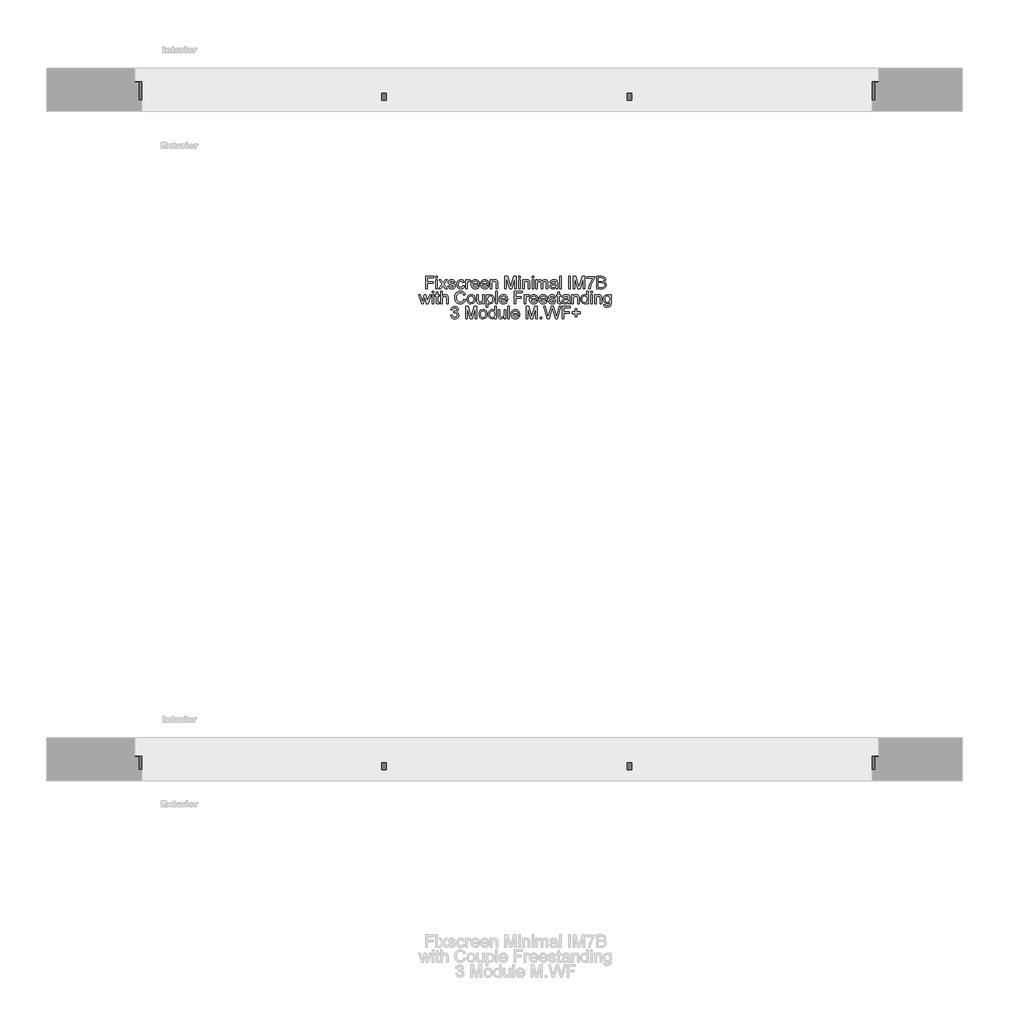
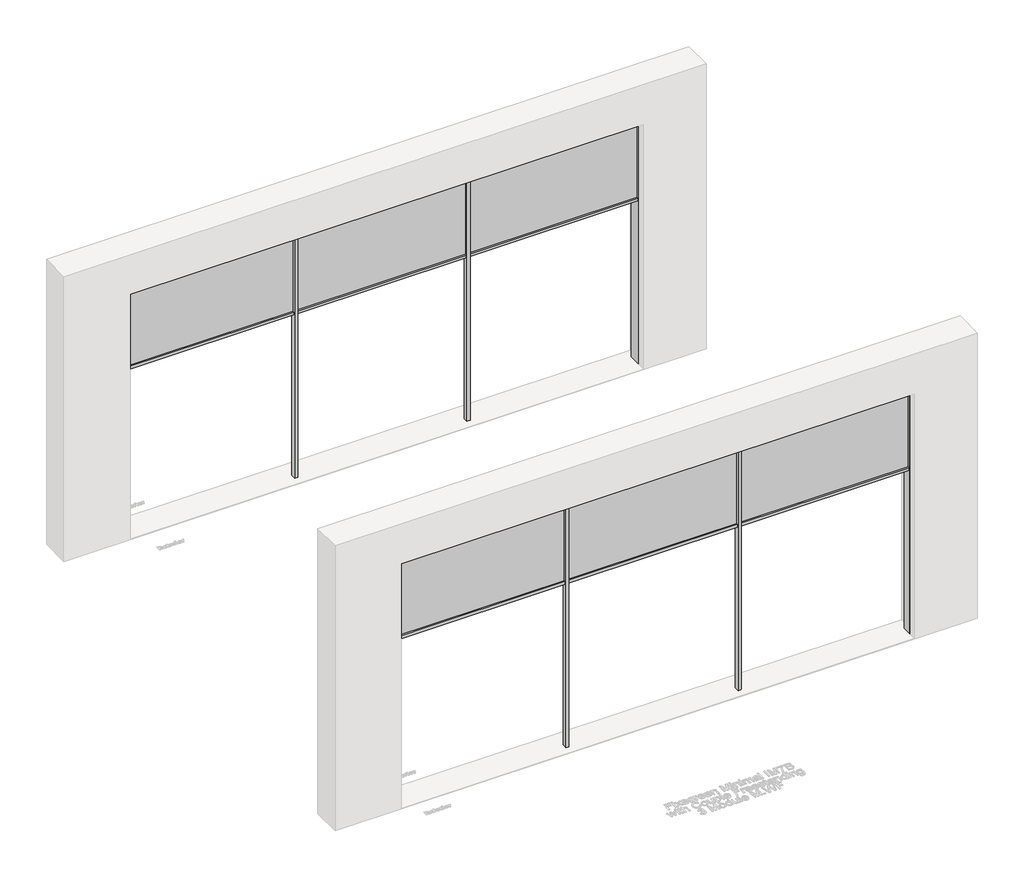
# One storey, part 14 of 14: 3 proxies.
"""IFC4 building model written with IfcOpenShell, lengths in millimetres."""

from ifc_helpers import new_model, si_unit, origin, origin_with_axes, place, context, project, spatial, polyline, outline, extrude, transform, mapped, element, save
from components import generic_models_ba440e1d, generic_models_d797c312

model = new_model("IFC4")

# Units and contexts
model_context = context("Model", 3, world=origin())
ifc_project = project(units=[si_unit("LENGTHUNIT", "METRE", prefix="MILLI")], contexts=[model_context])

# Site, building, storey
site = spatial("IfcSite", under=ifc_project)
building = spatial("IfcBuilding", under=site)
storey = spatial("IfcBuildingStorey", under=building, Name="Fixscreen Mini CF Overview Top", Elevation=0.0)

# Proxies
placement = place(None, origin())
generic_models_shape = generic_models_ba440e1d(model_context)
element("IfcBuildingElementProxy", 1, Name="Renson_Fixscreen_Minimal_IM7B_With_CF : Recessed - Front of the window - Medium-CF - Access downwards - Fabric away from the window", ObjectType="Renson_Fixscreen_Minimal_IM7B_With_CF : Recessed - Front of the window - Medium-CF - Access downwards - Fabric away from the window", at=placement, inside=storey, context=model_context, shape_type="MappedRepresentation", body=[
    mapped(generic_models_shape, transform((2057.1404643, 15780.6597098, -790.0), x_axis=(-1.0, 0.0, 0.0), y_axis=(0.0, -1.0, 0.0), z_axis=(0.0, 0.0, 1.0))),
])
generic_models_2_shape = generic_models_d797c312(model_context)
element("IfcBuildingElementProxy", 2, Name="Renson_Fixscreen_Minimal_IM7B_With_CF : Recessed - Front of the window - Medium-CF - Access downwards - Fabric away from the window", ObjectType="Renson_Fixscreen_Minimal_IM7B_With_CF : Recessed - Front of the window - Medium-CF - Access downwards - Fabric away from the window", at=placement, inside=storey, context=model_context, shape_type="MappedRepresentation", body=[
    mapped(generic_models_2_shape, transform((2057.1404643, 10326.5367638, -790.0), x_axis=(-1.0, 0.0, 0.0), y_axis=(0.0, -1.0, 0.0), z_axis=(0.0, 0.0, 1.0))),
])
element("IfcBuildingElementProxy", 3, Name="100mm Arial", ObjectType="100mm Arial", at=placement, inside=storey, context=model_context, shape_type="SweptSolid", body=[
    extrude(outline(polyline([(294.8320577, 14159.3437823), (294.8320577, 14259.8000924), (362.3261411, 14259.8000924), (362.3261411, 14247.2430536), (307.3890965, 14247.2430536), (307.3890965, 14217.4200866), (354.4779918, 14217.4200866), (354.4779918, 14204.8630478), (307.3890965, 14204.8630478), (307.3890965, 14159.3437823), (294.8320577, 14159.3437823)])), origin_with_axes(), (0.0, 0.0, 1.0), 5.0),
    extrude(outline(polyline([(378.0224395, 14159.3437823), (378.0224395, 14233.116385), (390.5794783, 14233.116385), (390.5794783, 14159.3437823), (378.0224395, 14159.3437823)])), origin_with_axes(), (0.0, 0.0, 1.0), 5.0),
    extrude(outline(polyline([(378.0224395, 14247.2430536), (378.0224395, 14259.8000924), (390.5794783, 14259.8000924), (390.5794783, 14247.2430536), (378.0224395, 14247.2430536)])), origin_with_axes(), (0.0, 0.0, 1.0), 5.0),
    extrude(outline(polyline([(401.5668872, 14159.3437823), (428.3977474, 14196.4262874), (403.1365171, 14233.116385), (418.2442043, 14233.116385), (430.4333611, 14215.4580493), (436.1232693, 14207.1193907), (441.052888, 14213.9374703), (454.934302, 14233.116385), (470.0419893, 14233.116385), (443.5054347, 14196.4262874), (469.0609706, 14159.3437823), (453.9532833, 14159.3437823), (438.5758159, 14181.6374312), (435.7553873, 14185.7086586), (416.6745745, 14159.3437823), (401.5668872, 14159.3437823)])), origin_with_axes(), (0.0, 0.0, 1.0), 5.0),
    extrude(outline(polyline([(475.33949, 14181.3186001), (487.8965288, 14182.88823), (493.7090643, 14173.5685527), (507.0263925, 14170.3311912), (519.8286859, 14173.2987726), (523.9980152, 14180.2640051), (519.8041605, 14185.9048623), (506.8792397, 14189.4855804), (487.9701052, 14195.6292097), (479.7172857, 14202.8029086), (476.9091198, 14212.9319262), (479.1654627, 14222.2883916), (485.3213548, 14229.4375651), (493.3043941, 14233.1531732), (504.107862, 14234.6860149), (519.3872275, 14232.2212055), (529.0993122, 14225.5502787), (533.4157943, 14214.2808269), (520.8587555, 14212.711197), (516.1376033, 14219.6396413), (505.0888807, 14222.1289761), (493.0714022, 14219.7500059), (489.4661586, 14214.2072505), (490.9622121, 14210.552956), (495.6465761, 14207.7815783), (506.4623068, 14205.1083025), (524.8931947, 14199.1976651), (533.4525825, 14192.5022128), (536.555054, 14181.5883802), (532.9130222, 14169.5709017), (522.4038599, 14160.8520984), (506.8547142, 14157.7741524), (494.1934422, 14159.2579431), (484.9534728, 14163.7093153), (478.785318, 14171.0792179), (475.33949, 14181.3186001)])), origin_with_axes(), (0.0, 0.0, 1.0), 5.0),
    extrude(outline(polyline([(597.770618, 14186.0274896), (610.3276568, 14184.4578598), (606.8266464, 14173.2895756), (600.2476901, 14164.8497495), (591.2100557, 14159.5430517), (580.3330114, 14157.7741524), (566.9758293, 14160.2420275), (556.5310463, 14167.6456526), (549.7896088, 14179.6600654), (547.5424629, 14195.9603035), (551.3806984, 14216.8192126), (563.0793458, 14230.22238), (580.1613332, 14234.6860149), (590.771663, 14233.1531732), (599.2544087, 14228.5546483), (605.33979, 14221.1356947), (608.7580269, 14211.1415672), (596.2009881, 14209.5719373), (590.3761899, 14218.9774537), (580.259435, 14222.1289761), (572.1445713, 14220.5777404), (565.7035707, 14215.9240331), (561.5005189, 14207.9164684), (560.0995017, 14196.30366), (561.4698621, 14184.5345019), (565.5809434, 14176.499346), (571.905448, 14171.8732299), (579.9160785, 14170.3311912), (591.749616, 14174.1816894), (597.770618, 14186.0274896)])), origin_with_axes(), (0.0, 0.0, 1.0), 5.0),
    extrude(outline(polyline([(621.3150657, 14159.3437823), (621.3150657, 14233.116385), (632.3024746, 14233.116385), (632.3024746, 14222.2025525), (640.1015729, 14232.2579937), (647.9497221, 14234.6860149), (660.5558118, 14230.8109912), (656.3619571, 14219.5538021), (647.5327892, 14222.1289761), (640.4326667, 14219.651904), (635.9077182, 14212.7847734), (633.8721044, 14198.1185446), (633.8721044, 14159.3437823), (621.3150657, 14159.3437823)])), origin_with_axes(), (0.0, 0.0, 1.0), 5.0),
    extrude(outline(polyline([(720.0545932, 14181.3186001), (732.3663773, 14179.7489703), (727.9303336, 14170.4722126), (720.8516708, 14163.537637), (711.2898046, 14159.2150236), (699.4041505, 14157.7741524), (684.6704766, 14160.2604216), (673.3335798, 14167.719229), (666.1046986, 14179.6661968), (663.6950715, 14195.616947), (666.1292241, 14212.1041917), (673.4316817, 14224.4343699), (684.6152943, 14232.1231036), (698.692912, 14234.6860149), (712.332137, 14232.129235), (723.2306411, 14224.4588954), (730.3767488, 14212.1532427), (732.7587848, 14195.6905234), (732.6852084, 14192.306009), (676.2521103, 14192.306009), (678.4256797, 14182.9066241), (683.4748601, 14175.9965739), (690.7619893, 14171.7475369), (699.6494052, 14170.3311912), (711.9611893, 14172.9554161), (720.0545932, 14181.3186001)]), holes=[polyline([(676.2521103, 14204.8630478), (720.201746, 14204.8630478), (715.1740254, 14216.2428642), (707.8531737, 14220.6574481), (698.6438611, 14222.1289761), (683.1805545, 14217.4323493), (678.3153151, 14211.9417105), (676.2521103, 14204.8630478)])]), origin_with_axes(), (0.0, 0.0, 1.0), 5.0),
    extrude(outline(polyline([(796.9664556, 14181.3186001), (809.2782397, 14179.7489703), (804.842196, 14170.4722126), (797.7635333, 14163.537637), (788.2016671, 14159.2150236), (776.316013, 14157.7741524), (761.5823391, 14160.2604216), (750.2454423, 14167.719229), (743.016561, 14179.6661968), (740.606934, 14195.616947), (743.0410865, 14212.1041917), (750.3435441, 14224.4343699), (761.5271568, 14232.1231036), (775.6047745, 14234.6860149), (789.2439994, 14232.129235), (800.1425035, 14224.4588954), (807.2886113, 14212.1532427), (809.6706472, 14195.6905234), (809.5970708, 14192.306009), (753.1639728, 14192.306009), (755.3375422, 14182.9066241), (760.3867226, 14175.9965739), (767.6738518, 14171.7475369), (776.5612676, 14170.3311912), (788.8730517, 14172.9554161), (796.9664556, 14181.3186001)]), holes=[polyline([(753.1639728, 14204.8630478), (797.1136084, 14204.8630478), (792.0858878, 14216.2428642), (784.7650361, 14220.6574481), (775.5557235, 14222.1289761), (760.092417, 14217.4323493), (755.2271776, 14211.9417105), (753.1639728, 14204.8630478)])]), origin_with_axes(), (0.0, 0.0, 1.0), 5.0),
    extrude(outline(polyline([(822.227686, 14159.3437823), (822.227686, 14233.116385), (834.7847247, 14233.116385), (834.7847247, 14222.8156892), (844.3864448, 14231.7184334), (857.4953066, 14234.6860149), (869.3533696, 14232.2947819), (877.4467735, 14226.0162625), (881.2114325, 14216.7824244), (881.8736201, 14204.6423186), (881.8736201, 14159.3437823), (869.3165814, 14159.3437823), (869.3165814, 14202.9500614), (867.8695788, 14214.0600977), (862.7560191, 14219.9339469), (854.1353177, 14222.1289761), (840.5114211, 14217.1993574), (836.2163988, 14210.0563153), (834.7847247, 14198.4864265), (834.7847247, 14159.3437823), (822.227686, 14159.3437823)])), origin_with_axes(), (0.0, 0.0, 1.0), 5.0),
    extrude(outline(polyline([(939.9499244, 14159.3437823), (939.9499244, 14259.8000924), (961.5568603, 14259.8000924), (982.1092011, 14188.9950711), (986.2540049, 14174.2062149), (990.7421652, 14190.2213444), (1010.9511495, 14259.8000924), (1032.5580854, 14259.8000924), (1032.5580854, 14159.3437823), (1020.0010466, 14159.3437823), (1020.0010466, 14247.2430536), (994.7643417, 14159.3437823), (977.7436681, 14159.3437823), (952.5069632, 14247.2430536), (952.5069632, 14159.3437823), (939.9499244, 14159.3437823)])), origin_with_axes(), (0.0, 0.0, 1.0), 5.0),
    extrude(outline(polyline([(1052.9632734, 14247.2430536), (1052.9632734, 14259.8000924), (1065.5203121, 14259.8000924), (1065.5203121, 14247.2430536), (1052.9632734, 14247.2430536)])), origin_with_axes(), (0.0, 0.0, 1.0), 5.0),
    extrude(outline(polyline([(1052.9632734, 14159.3437823), (1052.9632734, 14233.116385), (1065.5203121, 14233.116385), (1065.5203121, 14159.3437823), (1052.9632734, 14159.3437823)])), origin_with_axes(), (0.0, 0.0, 1.0), 5.0),
    extrude(outline(polyline([(1084.3558703, 14159.3437823), (1084.3558703, 14233.116385), (1096.912909, 14233.116385), (1096.912909, 14222.8156892), (1106.5146291, 14231.7184334), (1119.6234909, 14234.6860149), (1131.4815539, 14232.2947819), (1139.5749578, 14226.0162625), (1143.3396168, 14216.7824244), (1144.0018044, 14204.6423186), (1144.0018044, 14159.3437823), (1131.4447657, 14159.3437823), (1131.4447657, 14202.9500614), (1129.9977631, 14214.0600977), (1124.8842034, 14219.9339469), (1116.263502, 14222.1289761), (1102.6396054, 14217.1993574), (1098.3445831, 14210.0563153), (1096.912909, 14198.4864265), (1096.912909, 14159.3437823), (1084.3558703, 14159.3437823)])), origin_with_axes(), (0.0, 0.0, 1.0), 5.0),
    extrude(outline(polyline([(1161.2677327, 14159.3437823), (1161.2677327, 14233.116385), (1173.8247715, 14233.116385), (1173.8247715, 14159.3437823), (1161.2677327, 14159.3437823)])), origin_with_axes(), (0.0, 0.0, 1.0), 5.0),
    extrude(outline(polyline([(1161.2677327, 14247.2430536), (1161.2677327, 14259.8000924), (1173.8247715, 14259.8000924), (1173.8247715, 14247.2430536), (1161.2677327, 14247.2430536)])), origin_with_axes(), (0.0, 0.0, 1.0), 5.0),
    extrude(outline(polyline([(1192.6603297, 14159.3437823), (1192.6603297, 14233.116385), (1205.2173684, 14233.116385), (1205.2173684, 14220.9762792), (1213.8503326, 14230.9213558), (1226.1375912, 14234.6860149), (1238.7191555, 14230.8477794), (1245.635337, 14220.0933624), (1255.4332608, 14231.0378518), (1267.8063585, 14234.6860149), (1277.2455974, 14233.1685016), (1284.2261583, 14228.615962), (1288.5395746, 14220.9057685), (1289.9773801, 14209.9152939), (1289.9773801, 14159.3437823), (1277.4203413, 14159.3437823), (1277.4203413, 14204.5196913), (1276.2553817, 14215.0043281), (1272.0370015, 14220.1669388), (1264.8633026, 14222.1289761), (1252.5147303, 14217.1012555), (1248.8267133, 14210.5590874), (1247.5973743, 14200.9880241), (1247.5973743, 14159.3437823), (1235.0403355, 14159.3437823), (1235.0403355, 14205.9176428), (1232.1340677, 14218.0822742), (1222.6059241, 14222.1289761), (1213.3107723, 14219.4311748), (1207.1303548, 14211.5339746), (1205.2173684, 14196.5489147), (1205.2173684, 14159.3437823), (1192.6603297, 14159.3437823)])), origin_with_axes(), (0.0, 0.0, 1.0), 5.0),
    extrude(outline(polyline([(1355.9018336, 14168.7615613), (1343.7249396, 14160.2512245), (1330.2727213, 14157.7741524), (1319.7788874, 14159.2640745), (1312.0380371, 14163.7338407), (1307.2647682, 14170.5212635), (1305.6736786, 14178.9641553), (1308.0771743, 14188.8969692), (1314.3924819, 14196.1074563), (1323.1848615, 14200.2277347), (1334.0496431, 14202.1161956), (1355.8282572, 14206.4326776), (1355.9018336, 14209.2285808), (1352.4437429, 14218.4992071), (1338.5623289, 14222.1289761), (1325.8581374, 14219.7132177), (1319.8003472, 14211.1415672), (1307.2433084, 14212.711197), (1312.6756992, 14224.9739302), (1323.6140572, 14232.1598918), (1340.1810097, 14234.6860149), (1355.3990616, 14232.4541974), (1363.9952375, 14226.8501284), (1367.8457358, 14218.3275288), (1368.4588724, 14207.3401199), (1368.4588724, 14191.7173978), (1369.0965345, 14169.9019955), (1371.5981321, 14159.3437823), (1359.0410933, 14159.3437823), (1355.9018336, 14168.7615613)]), holes=[polyline([(1355.9018336, 14193.8756389), (1335.6437984, 14190.0251407), (1324.8403305, 14187.989527), (1319.9475, 14184.678589), (1318.2307173, 14179.8470721), (1321.970851, 14173.0535179), (1332.9459971, 14170.3311912), (1345.6501887, 14173.3355608), (1353.8416945, 14180.6073616), (1355.8282572, 14190.3194463), (1355.9018336, 14193.8756389)])]), origin_with_axes(), (0.0, 0.0, 1.0), 5.0),
    extrude(outline(polyline([(1385.7248007, 14159.3437823), (1385.7248007, 14259.8000924), (1398.2818395, 14259.8000924), (1398.2818395, 14159.3437823), (1385.7248007, 14159.3437823)])), origin_with_axes(), (0.0, 0.0, 1.0), 5.0),
    extrude(outline(polyline([(1459.4974035, 14159.3437823), (1459.4974035, 14259.8000924), (1472.0544423, 14259.8000924), (1472.0544423, 14159.3437823), (1459.4974035, 14159.3437823)])), origin_with_axes(), (0.0, 0.0, 1.0), 5.0),
    extrude(outline(polyline([(1497.1685198, 14159.3437823), (1497.1685198, 14259.8000924), (1518.7754556, 14259.8000924), (1539.3277964, 14188.9950711), (1543.4726003, 14174.2062149), (1547.9607606, 14190.2213444), (1568.1697449, 14259.8000924), (1589.7766807, 14259.8000924), (1589.7766807, 14159.3437823), (1577.2196419, 14159.3437823), (1577.2196419, 14247.2430536), (1551.9829371, 14159.3437823), (1534.9622634, 14159.3437823), (1509.7255586, 14247.2430536), (1509.7255586, 14159.3437823), (1497.1685198, 14159.3437823)])), origin_with_axes(), (0.0, 0.0, 1.0), 5.0),
    extrude(outline(polyline([(1607.042609, 14245.6734238), (1607.042609, 14258.2304626), (1672.9670626, 14258.2304626), (1672.9670626, 14248.0769195), (1654.2663945, 14221.0621183), (1639.9557849, 14186.6406263), (1635.2959463, 14159.3437823), (1622.7389075, 14159.3437823), (1627.7298399, 14187.6706959), (1641.4273128, 14219.6886922), (1660.4100238, 14245.6734238), (1607.042609, 14245.6734238)])), origin_with_axes(), (0.0, 0.0, 1.0), 5.0),
    extrude(outline(polyline([(1688.663361, 14159.3437823), (1688.663361, 14259.8000924), (1726.9966649, 14259.8000924), (1745.7709094, 14256.8447737), (1756.8564202, 14247.7580884), (1760.8663339, 14234.9067441), (1757.4940823, 14223.1713084), (1747.303751, 14214.2808269), (1759.6768488, 14204.9120987), (1764.0055936, 14189.2893767), (1761.0502749, 14175.7881074), (1753.7294232, 14166.1741246), (1742.803328, 14161.0728276), (1726.7023593, 14159.3437823), (1688.663361, 14159.3437823)]), holes=[polyline([(1701.2203998, 14218.9897164), (1724.1517108, 14218.9897164), (1737.5426154, 14220.0688369), (1745.5992311, 14224.7164128), (1748.3092952, 14232.8956558), (1745.7831721, 14241.0871616), (1738.5481596, 14245.9309412), (1722.4104027, 14247.2430536), (1701.2203998, 14247.2430536), (1701.2203998, 14218.9897164)]), polyline([(1701.2203998, 14171.900821), (1726.9721394, 14171.900821), (1736.2918167, 14172.3913304), (1744.1767541, 14175.1259199), (1749.4006784, 14180.7054634), (1751.4485549, 14189.1667493), (1749.0450592, 14198.9278849), (1741.2582236, 14204.7526832), (1725.7458661, 14206.4326776), (1701.2203998, 14206.4326776), (1701.2203998, 14171.900821)])]), origin_with_axes(), (0.0, 0.0, 1.0), 5.0),
    extrude(outline(polyline([(260.7661849, 14037.3689644), (238.3253832, 14111.1415672), (251.3729313, 14111.1415672), (264.1016484, 14068.0993737), (267.9030956, 14052.7219063), (271.0178299, 14067.535288), (281.1468475, 14111.1415672), (296.1073819, 14111.1415672), (306.1873486, 14067.6579154), (308.9587263, 14054.2424853), (312.9318519, 14068.3936793), (325.6850944, 14111.1415672), (338.7816934, 14111.1415672), (316.1692134, 14037.3689644), (300.9879497, 14037.3689644), (291.3494415, 14080.631887), (288.5535383, 14094.1208935), (276.1191269, 14037.3689644), (260.7661849, 14037.3689644)])), origin_with_axes(), (0.0, 0.0, 1.0), 5.0),
    extrude(outline(polyline([(347.4146575, 14037.3689644), (347.4146575, 14111.1415672), (359.9716963, 14111.1415672), (359.9716963, 14037.3689644), (347.4146575, 14037.3689644)])), origin_with_axes(), (0.0, 0.0, 1.0), 5.0),
    extrude(outline(polyline([(347.4146575, 14125.2682358), (347.4146575, 14137.8252746), (359.9716963, 14137.8252746), (359.9716963, 14125.2682358), (347.4146575, 14125.2682358)])), origin_with_axes(), (0.0, 0.0, 1.0), 5.0),
    extrude(outline(polyline([(405.4909618, 14047.8413385), (407.0605917, 14037.0010824), (397.6673381, 14035.7993346), (387.145913, 14037.8839992), (381.8974632, 14043.3531782), (380.3768843, 14057.6024741), (380.3768843, 14098.5845284), (370.9591052, 14098.5845284), (370.9591052, 14111.1415672), (380.3768843, 14111.1415672), (380.3768843, 14129.0696831), (392.9339231, 14136.4518484), (392.9339231, 14111.1415672), (405.4909618, 14111.1415672), (405.4909618, 14098.5845284), (392.9339231, 14098.5845284), (392.9339231, 14057.9703561), (393.5961107, 14051.495633), (395.742089, 14049.2025019), (400.0217828, 14048.3563733), (405.4909618, 14047.8413385)])), origin_with_axes(), (0.0, 0.0, 1.0), 5.0),
    extrude(outline(polyline([(418.0480006, 14037.3689644), (418.0480006, 14137.8252746), (430.6050394, 14137.8252746), (430.6050394, 14100.8899222), (440.3968318, 14109.7558783), (452.4572299, 14112.711197), (466.559373, 14109.4860982), (475.1187608, 14100.5710912), (477.6939348, 14084.0654523), (477.6939348, 14037.3689644), (465.136896, 14037.3689644), (465.136896, 14082.7656026), (461.139245, 14096.0093544), (449.8084795, 14100.1541583), (439.5200464, 14097.3582551), (432.6529158, 14089.779886), (430.6050394, 14076.5606596), (430.6050394, 14037.3689644), (418.0480006, 14037.3689644)])), origin_with_axes(), (0.0, 0.0, 1.0), 5.0),
    extrude(outline(polyline([(606.4035821, 14073.0780434), (618.9606209, 14069.8406819), (613.1664795, 14055.2081755), (604.0736628, 14044.5181379), (592.1297607, 14037.9790354), (577.7823629, 14035.7993346), (563.2173016, 14037.4486722), (551.6504785, 14042.396685), (542.7845224, 14050.4716948), (536.3220621, 14061.5020233), (531.0613495, 14088.3574089), (532.5482059, 14103.0052437), (537.0087751, 14115.654253), (544.2100652, 14125.9028322), (553.9190842, 14133.349377), (565.4337906, 14137.8835225), (578.052143, 14139.3949044), (591.8201267, 14137.4389985), (603.2030088, 14131.5712806), (611.84517, 14122.1535016), (617.3909911, 14109.5474119), (604.8339523, 14106.555305), (594.5332564, 14121.994086), (577.5616337, 14126.8378656), (557.9167352, 14121.4667885), (546.8189617, 14107.0458143), (543.6183883, 14088.3819344), (547.4075728, 14066.7504731), (559.2043222, 14052.9303728), (576.5315641, 14048.3563733), (587.0131353, 14049.9137405), (595.747267, 14054.5858418), (602.3415518, 14062.3236264), (606.4035821, 14073.0780434)])), origin_with_axes(), (0.0, 0.0, 1.0), 5.0),
    extrude(outline(polyline([(631.5176597, 14074.2552658), (634.2338551, 14092.0423603), (642.3824413, 14104.5442167), (652.4501452, 14110.669452), (664.5044119, 14112.711197), (677.6960471, 14110.2249279), (688.2328006, 14102.7661204), (695.1397851, 14090.9233859), (697.4421132, 14075.2853354), (693.3708858, 14052.9426355), (681.5128228, 14040.2997576), (664.5044119, 14035.7993346), (651.1533612, 14038.2764067), (640.6288704, 14045.707623), (633.7954624, 14057.7986779), (631.5176597, 14074.2552658)]), holes=[polyline([(644.0746984, 14074.2797913), (645.5278323, 14062.9153033), (649.887234, 14054.8188337), (656.4477962, 14049.9719884), (664.5044119, 14048.3563733), (672.5242394, 14049.9811855), (679.0725389, 14054.8556219), (683.4319406, 14063.0593904), (684.8850744, 14074.6721987), (683.4227435, 14085.7055929), (679.0357507, 14093.6916979), (672.4782542, 14098.5385432), (664.5044119, 14100.1541583), (656.4477962, 14098.5446745), (649.887234, 14093.7162233), (645.5278323, 14085.6381479), (644.0746984, 14074.2797913)])]), origin_with_axes(), (0.0, 0.0, 1.0), 5.0),
    extrude(outline(polyline([(758.6576772, 14037.3689644), (758.6576772, 14050.0486305), (748.8229652, 14039.3616586), (735.9961463, 14035.7993346), (724.1871343, 14038.3009321), (716.0446794, 14044.5794515), (712.3045458, 14053.8255523), (711.5687818, 14065.4996743), (711.5687818, 14111.1415672), (724.1258206, 14111.1415672), (724.1258206, 14071.4103117), (724.8861101, 14058.6080183), (729.852517, 14051.0909628), (739.2089824, 14048.3563733), (749.6936193, 14051.1522765), (756.6220635, 14058.7674338), (758.6576772, 14072.7592124), (758.6576772, 14111.1415672), (771.214716, 14111.1415672), (771.214716, 14037.3689644), (758.6576772, 14037.3689644)])), origin_with_axes(), (0.0, 0.0, 1.0), 5.0),
    extrude(outline(polyline([(788.4806443, 14009.1156272), (788.4806443, 14111.1415672), (801.0376831, 14111.1415672), (801.0376831, 14098.8297831), (809.7196981, 14109.2408435), (821.4428711, 14112.711197), (837.3598987, 14107.8551547), (847.7586964, 14094.1699445), (851.2658381, 14074.8193515), (847.3049753, 14054.4754772), (835.8025316, 14040.6185887), (819.9222921, 14035.7993346), (808.9961969, 14039.0244334), (801.0376831, 14047.179151), (801.0376831, 14009.1156272), (788.4806443, 14009.1156272)]), holes=[polyline([(801.0376831, 14073.6666546), (802.3957808, 14062.4094656), (806.4700739, 14054.5367909), (812.4818788, 14049.9014777), (819.652512, 14048.3563733), (826.9396412, 14049.95666), (833.1047303, 14054.7575201), (837.3077821, 14062.918369), (838.7087994, 14074.5986223), (837.3415046, 14085.7944977), (833.2396204, 14093.777537), (827.2370125, 14098.5600029), (820.1675468, 14100.1541583), (813.07049, 14098.4588354), (806.8379558, 14093.3728668), (802.4877513, 14085.055668), (801.0376831, 14073.6666546)])]), origin_with_axes(), (0.0, 0.0, 1.0), 5.0),
    extrude(outline(polyline([(865.3925067, 14037.3689644), (865.3925067, 14137.8252746), (877.9495455, 14137.8252746), (877.9495455, 14037.3689644), (865.3925067, 14037.3689644)])), origin_with_axes(), (0.0, 0.0, 1.0), 5.0),
    extrude(outline(polyline([(948.4357358, 14059.3437823), (960.7475199, 14057.7741524), (956.3114762, 14048.4973948), (949.2328134, 14041.5628192), (939.6709473, 14037.2402057), (927.7852931, 14035.7993346), (913.0516192, 14038.2856037), (901.7147224, 14045.7444112), (894.4858412, 14057.691379), (892.0762141, 14073.6421291), (894.5103667, 14090.1293739), (901.8128243, 14102.4595521), (912.9964369, 14110.1482858), (927.0740546, 14112.711197), (940.7132796, 14110.1544172), (951.6117837, 14102.4840776), (958.7578914, 14090.1784248), (961.1399274, 14073.7157055), (961.066351, 14070.3311912), (904.6332529, 14070.3311912), (906.8068224, 14060.9318062), (911.8560027, 14054.0217561), (919.1431319, 14049.772719), (928.0305478, 14048.3563733), (940.3423319, 14050.9805982), (948.4357358, 14059.3437823)]), holes=[polyline([(904.6332529, 14082.88823), (948.5828886, 14082.88823), (943.555168, 14094.2680463), (936.2343163, 14098.6826303), (927.0250037, 14100.1541583), (911.5616971, 14095.4575315), (906.6964578, 14089.9668927), (904.6332529, 14082.88823)])]), origin_with_axes(), (0.0, 0.0, 1.0), 5.0),
    extrude(outline(polyline([(1014.5073421, 14037.3689644), (1014.5073421, 14137.8252746), (1082.0014255, 14137.8252746), (1082.0014255, 14125.2682358), (1027.0643809, 14125.2682358), (1027.0643809, 14095.4452687), (1074.1532763, 14095.4452687), (1074.1532763, 14082.88823), (1027.0643809, 14082.88823), (1027.0643809, 14037.3689644), (1014.5073421, 14037.3689644)])), origin_with_axes(), (0.0, 0.0, 1.0), 5.0),
    extrude(outline(polyline([(1097.697724, 14037.3689644), (1097.697724, 14111.1415672), (1108.6851329, 14111.1415672), (1108.6851329, 14100.2277347), (1116.4842312, 14110.2831759), (1124.3323804, 14112.711197), (1136.9384701, 14108.8361733), (1132.7446154, 14097.5789843), (1123.9154475, 14100.1541583), (1116.815325, 14097.6770862), (1112.2903764, 14090.8099556), (1110.2547627, 14076.1437267), (1110.2547627, 14037.3689644), (1097.697724, 14037.3689644)])), origin_with_axes(), (0.0, 0.0, 1.0), 5.0),
    extrude(outline(polyline([(1196.4372515, 14059.3437823), (1208.7490356, 14057.7741524), (1204.3129919, 14048.4973948), (1197.2343291, 14041.5628192), (1187.6724629, 14037.2402057), (1175.7868088, 14035.7993346), (1161.0531349, 14038.2856037), (1149.7162381, 14045.7444112), (1142.4873569, 14057.691379), (1140.0777298, 14073.6421291), (1142.5118823, 14090.1293739), (1149.8143399, 14102.4595521), (1160.9979526, 14110.1482858), (1175.0755703, 14112.711197), (1188.7147953, 14110.1544172), (1199.6132994, 14102.4840776), (1206.7594071, 14090.1784248), (1209.141443, 14073.7157055), (1209.0678666, 14070.3311912), (1152.6347686, 14070.3311912), (1154.808338, 14060.9318062), (1159.8575184, 14054.0217561), (1167.1446476, 14049.772719), (1176.0320635, 14048.3563733), (1188.3438476, 14050.9805982), (1196.4372515, 14059.3437823)]), holes=[polyline([(1152.6347686, 14082.88823), (1196.5844043, 14082.88823), (1191.5566837, 14094.2680463), (1184.235832, 14098.6826303), (1175.0265194, 14100.1541583), (1159.5632128, 14095.4575315), (1154.6979734, 14089.9668927), (1152.6347686, 14082.88823)])]), origin_with_axes(), (0.0, 0.0, 1.0), 5.0),
    extrude(outline(polyline([(1273.3491139, 14059.3437823), (1285.660898, 14057.7741524), (1281.2248543, 14048.4973948), (1274.1461916, 14041.5628192), (1264.5843254, 14037.2402057), (1252.6986713, 14035.7993346), (1237.9649974, 14038.2856037), (1226.6281005, 14045.7444112), (1219.3992193, 14057.691379), (1216.9895923, 14073.6421291), (1219.4237448, 14090.1293739), (1226.7262024, 14102.4595521), (1237.9098151, 14110.1482858), (1251.9874327, 14112.711197), (1265.6266577, 14110.1544172), (1276.5251618, 14102.4840776), (1283.6712696, 14090.1784248), (1286.0533055, 14073.7157055), (1285.9797291, 14070.3311912), (1229.546631, 14070.3311912), (1231.7202005, 14060.9318062), (1236.7693809, 14054.0217561), (1244.0565101, 14049.772719), (1252.9439259, 14048.3563733), (1265.25571, 14050.9805982), (1273.3491139, 14059.3437823)]), holes=[polyline([(1229.546631, 14082.88823), (1273.4962667, 14082.88823), (1268.4685461, 14094.2680463), (1261.1476944, 14098.6826303), (1251.9383818, 14100.1541583), (1236.4750753, 14095.4575315), (1231.6098359, 14089.9668927), (1229.546631, 14082.88823)])]), origin_with_axes(), (0.0, 0.0, 1.0), 5.0),
    extrude(outline(polyline([(1293.9014547, 14059.3437823), (1306.4584935, 14060.9134121), (1312.271029, 14051.5937349), (1325.5883572, 14048.3563733), (1338.3906507, 14051.3239548), (1342.55998, 14058.2891872), (1338.3661252, 14063.9300445), (1325.4412044, 14067.5107626), (1306.5320699, 14073.6543919), (1298.2792505, 14080.8280908), (1295.4710846, 14090.9571084), (1297.7274275, 14100.3135738), (1303.8833195, 14107.4627472), (1311.8663588, 14111.1783554), (1322.6698268, 14112.711197), (1337.9491923, 14110.2463877), (1347.661277, 14103.5754608), (1351.977759, 14092.306009), (1339.4207203, 14090.7363792), (1334.699568, 14097.6648234), (1323.6508454, 14100.1541583), (1311.6333669, 14097.775188), (1308.0281233, 14092.2324326), (1309.5241768, 14088.5781381), (1314.2085409, 14085.8067604), (1325.0242715, 14083.1334846), (1343.4551595, 14077.2228472), (1352.0145472, 14070.5273949), (1355.1170187, 14059.6135624), (1351.474987, 14047.5960839), (1340.9658246, 14038.8772806), (1325.416679, 14035.7993346), (1312.755407, 14037.2831253), (1303.5154375, 14041.7344974), (1297.3472827, 14049.1044001), (1293.9014547, 14059.3437823)])), origin_with_axes(), (0.0, 0.0, 1.0), 5.0),
    extrude(outline(polyline([(1395.9273947, 14047.8413385), (1397.4970246, 14037.0010824), (1388.103771, 14035.7993346), (1377.5823459, 14037.8839992), (1372.3338961, 14043.3531782), (1370.8133172, 14057.6024741), (1370.8133172, 14098.5845284), (1361.3955381, 14098.5845284), (1361.3955381, 14111.1415672), (1370.8133172, 14111.1415672), (1370.8133172, 14129.0696831), (1383.370356, 14136.4518484), (1383.370356, 14111.1415672), (1395.9273947, 14111.1415672), (1395.9273947, 14098.5845284), (1383.370356, 14098.5845284), (1383.370356, 14057.9703561), (1384.0325435, 14051.495633), (1386.1785219, 14049.2025019), (1390.4582157, 14048.3563733), (1395.9273947, 14047.8413385)])), origin_with_axes(), (0.0, 0.0, 1.0), 5.0),
    extrude(outline(polyline([(1455.5733289, 14046.7867435), (1443.3964348, 14038.2764067), (1429.9442165, 14035.7993346), (1419.4503826, 14037.2892566), (1411.7095323, 14041.7590229), (1406.9362634, 14048.5464457), (1405.3451738, 14056.9893375), (1407.7486695, 14066.9221514), (1414.0639771, 14074.1326385), (1422.8563568, 14078.2529168), (1433.7211384, 14080.1413777), (1455.4997525, 14084.4578598), (1455.5733289, 14087.253763), (1452.1152381, 14096.5243892), (1438.2338242, 14100.1541583), (1425.5296326, 14097.7383998), (1419.4718424, 14089.1667493), (1406.9148036, 14090.7363792), (1412.3471944, 14102.9991124), (1423.2855524, 14110.185074), (1439.8525049, 14112.711197), (1455.0705568, 14110.4793796), (1463.6667328, 14104.8753105), (1467.517231, 14096.352711), (1468.1303676, 14085.3653021), (1468.1303676, 14069.74258), (1468.7680298, 14047.9271777), (1471.2696273, 14037.3689644), (1458.7125886, 14037.3689644), (1455.5733289, 14046.7867435)]), holes=[polyline([(1455.5733289, 14071.900821), (1435.3152937, 14068.0503228), (1424.5118257, 14066.0147091), (1419.6189952, 14062.7037711), (1417.9022126, 14057.8722543), (1421.6423462, 14051.0787001), (1432.6174924, 14048.3563733), (1445.3216839, 14051.360743), (1453.5131897, 14058.6325437), (1455.4997525, 14068.3446284), (1455.5733289, 14071.900821)])]), origin_with_axes(), (0.0, 0.0, 1.0), 5.0),
    extrude(outline(polyline([(1485.3962959, 14037.3689644), (1485.3962959, 14111.1415672), (1497.9533347, 14111.1415672), (1497.9533347, 14100.8408713), (1507.5550548, 14109.7436156), (1520.6639166, 14112.711197), (1532.5219795, 14110.3199641), (1540.6153834, 14104.0414447), (1544.3800425, 14094.8076066), (1545.0422301, 14082.6675008), (1545.0422301, 14037.3689644), (1532.4851913, 14037.3689644), (1532.4851913, 14080.9752436), (1531.0381888, 14092.0852798), (1525.9246291, 14097.959129), (1517.3039277, 14100.1541583), (1503.6800311, 14095.2245395), (1499.3850088, 14088.0814974), (1497.9533347, 14076.5116087), (1497.9533347, 14037.3689644), (1485.3962959, 14037.3689644)])), origin_with_axes(), (0.0, 0.0, 1.0), 5.0),
    extrude(outline(polyline([(1607.8274239, 14037.3689644), (1607.8274239, 14049.2147647), (1599.5194222, 14039.1531921), (1588.0353726, 14035.7993346), (1572.4862269, 14040.6553769), (1561.498818, 14054.2056971), (1557.5992689, 14074.1816894), (1561.1922497, 14094.1699445), (1571.9589294, 14107.9287311), (1587.9863217, 14112.711197), (1599.5623418, 14109.2898945), (1607.8274239, 14100.3994129), (1607.8274239, 14137.8252746), (1620.3844627, 14137.8252746), (1620.3844627, 14037.3689644), (1607.8274239, 14037.3689644)]), holes=[polyline([(1570.1563076, 14074.2307403), (1571.5726533, 14062.8723837), (1575.8216904, 14054.7943083), (1581.9959765, 14049.9658571), (1589.1880695, 14048.3563733), (1596.3770968, 14049.8922807), (1602.3950331, 14054.5000027), (1606.4693262, 14062.2653784), (1607.8274239, 14073.2742471), (1606.4448008, 14085.3101198), (1602.2969313, 14093.6549097), (1596.1257108, 14098.5293461), (1588.6730347, 14100.1541583), (1581.4073653, 14098.5937255), (1575.4538084, 14093.9124271), (1571.4806828, 14085.8711398), (1570.1563076, 14074.2307403)])]), origin_with_axes(), (0.0, 0.0, 1.0), 5.0),
    extrude(outline(polyline([(1639.2200209, 14037.3689644), (1639.2200209, 14111.1415672), (1651.7770596, 14111.1415672), (1651.7770596, 14037.3689644), (1639.2200209, 14037.3689644)])), origin_with_axes(), (0.0, 0.0, 1.0), 5.0),
    extrude(outline(polyline([(1639.2200209, 14125.2682358), (1639.2200209, 14137.8252746), (1651.7770596, 14137.8252746), (1651.7770596, 14125.2682358), (1639.2200209, 14125.2682358)])), origin_with_axes(), (0.0, 0.0, 1.0), 5.0),
    extrude(outline(polyline([(1670.6126178, 14037.3689644), (1670.6126178, 14111.1415672), (1683.1696566, 14111.1415672), (1683.1696566, 14100.8408713), (1692.7713766, 14109.7436156), (1705.8802384, 14112.711197), (1717.7383014, 14110.3199641), (1725.8317053, 14104.0414447), (1729.5963643, 14094.8076066), (1730.2585519, 14082.6675008), (1730.2585519, 14037.3689644), (1717.7015132, 14037.3689644), (1717.7015132, 14080.9752436), (1716.2545107, 14092.0852798), (1711.1409509, 14097.959129), (1702.5202495, 14100.1541583), (1688.8963529, 14095.2245395), (1684.6013307, 14088.0814974), (1683.1696566, 14076.5116087), (1683.1696566, 14037.3689644), (1670.6126178, 14037.3689644)])), origin_with_axes(), (0.0, 0.0, 1.0), 5.0),
    extrude(outline(polyline([(1744.3852206, 14031.090445), (1756.9422593, 14029.5208152), (1761.0134867, 14022.8989393), (1773.2026435, 14020.1030361), (1786.0539879, 14023.2668213), (1792.1853545, 14032.1450401), (1793.0437458, 14046.7867435), (1784.2023152, 14039.7234092), (1773.4233727, 14037.3689644), (1760.4769922, 14040.1096853), (1750.8231555, 14048.3318479), (1744.8174819, 14060.3861146), (1742.8155907, 14074.6231478), (1746.4085715, 14094.0841053), (1756.8073693, 14107.8551547), (1772.810236, 14112.711197), (1784.0122428, 14109.9643448), (1793.0437458, 14101.7237881), (1793.0437458, 14111.1415672), (1805.6007846, 14111.1415672), (1805.6007846, 14047.4489311), (1802.1672193, 14023.0583548), (1791.2901749, 14011.7153266), (1772.9573888, 14007.5459973), (1761.2740698, 14009.0144596), (1752.0739543, 14013.4198465), (1746.1725139, 14020.7744207), (1744.3852206, 14031.090445)]), holes=[polyline([(1755.3726295, 14075.4815391), (1756.7123331, 14063.963767), (1760.7314439, 14056.045107), (1766.7739056, 14051.4557791), (1774.1836622, 14049.9260032), (1781.5382364, 14051.4465821), (1787.611355, 14056.0083188), (1791.6856481, 14063.8258112), (1793.0437458, 14075.1136571), (1791.6457942, 14085.9998985), (1787.4519395, 14093.8388507), (1781.289916, 14098.5753314), (1773.9874584, 14100.1541583), (1766.8168252, 14098.5998568), (1760.8050203, 14093.9369525), (1756.7307272, 14086.2144963), (1755.3726295, 14075.4815391)])]), origin_with_axes(), (0.0, 0.0, 1.0), 5.0),
    extrude(outline(polyline([(498.8839377, 13942.077854), (511.4409765, 13943.6474838), (518.3694207, 13930.4282574), (531.3311297, 13926.3815555), (539.9395683, 13927.7733757), (546.5859697, 13931.9488364), (552.2513525, 13945.7321484), (546.6350207, 13958.7183829), (532.3611992, 13963.8564681), (523.5565568, 13962.483042), (524.9545084, 13975.0400807), (526.9655966, 13974.8929279), (541.2148926, 13978.4981715), (545.9605703, 13983.0721709), (547.5424629, 13989.5836823), (542.9562007, 13999.4061315), (531.1349259, 14003.293418), (519.1664984, 13999.3693433), (513.0106063, 13987.5971195), (500.4535675, 13989.1667493), (504.1507816, 14000.4423325), (510.7297379, 14008.8606988), (519.7305841, 14014.1030172), (530.6934675, 14015.8504567), (545.837943, 14012.4046287), (556.4329445, 14002.9868496), (560.0995017, 13990.3194463), (556.6168855, 13978.7434261), (546.3161896, 13970.429293), (560.0013998, 13961.8453798), (564.8083912, 13945.5114192), (562.4048955, 13933.2732115), (555.1944084, 13923.0460921), (544.3112327, 13916.1299106), (530.8896713, 13913.8245167), (518.7495654, 13915.7926854), (508.8658025, 13921.6971914), (501.9925405, 13930.7286944), (498.8839377, 13942.077854)])), origin_with_axes(), (0.0, 0.0, 1.0), 5.0),
    extrude(outline(polyline([(619.7454358, 13915.3941466), (619.7454358, 14015.8504567), (641.3523717, 14015.8504567), (661.9047125, 13945.0454354), (666.0495163, 13930.2565792), (670.5376766, 13946.2717087), (690.7466609, 14015.8504567), (712.3535968, 14015.8504567), (712.3535968, 13915.3941466), (699.796558, 13915.3941466), (699.796558, 14003.293418), (674.5598531, 13915.3941466), (657.5391795, 13915.3941466), (632.3024746, 14003.293418), (632.3024746, 13915.3941466), (619.7454358, 13915.3941466)])), origin_with_axes(), (0.0, 0.0, 1.0), 5.0),
    extrude(outline(polyline([(729.6195251, 13952.280448), (732.3357205, 13970.0675424), (740.4843066, 13982.5693989), (750.5520106, 13988.6946341), (762.6062773, 13990.7363792), (775.7979125, 13988.25011), (786.334666, 13980.7913026), (793.2416504, 13968.948568), (795.5439786, 13953.3105175), (791.4727512, 13930.9678177), (779.6146882, 13918.3249398), (762.6062773, 13913.8245167), (749.2552266, 13916.3015888), (738.7307358, 13923.7328051), (731.8973277, 13935.82386), (729.6195251, 13952.280448)]), holes=[polyline([(742.1765638, 13952.3049734), (743.6296977, 13940.9404855), (747.9890994, 13932.8440159), (754.5496616, 13927.9971706), (762.6062773, 13926.3815555), (770.6261048, 13928.0063676), (777.1744043, 13932.8808041), (781.5338059, 13941.0845726), (782.9869398, 13952.6973809), (781.5246089, 13963.7307751), (777.1376161, 13971.71688), (770.5801195, 13976.5637253), (762.6062773, 13978.1793404), (754.5496616, 13976.5698567), (747.9890994, 13971.7414055), (743.6296977, 13963.66333), (742.1765638, 13952.3049734)])]), origin_with_axes(), (0.0, 0.0, 1.0), 5.0),
    extrude(outline(polyline([(855.1899127, 13915.3941466), (855.1899127, 13927.2399468), (846.881911, 13917.1783742), (835.3978614, 13913.8245167), (819.8487157, 13918.6805591), (808.8613068, 13932.2308792), (804.9617577, 13952.2068716), (808.5547385, 13972.1951266), (819.3214182, 13985.9539132), (835.3488105, 13990.7363792), (846.9248306, 13987.3150766), (855.1899127, 13978.4245951), (855.1899127, 14015.8504567), (867.7469515, 14015.8504567), (867.7469515, 13915.3941466), (855.1899127, 13915.3941466)]), holes=[polyline([(817.5187964, 13952.2559225), (818.9351421, 13940.8975659), (823.1841792, 13932.8194904), (829.3584653, 13927.9910392), (836.5505583, 13926.3815555), (843.7395856, 13927.9174628), (849.757522, 13932.5251848), (853.831815, 13940.2905606), (855.1899127, 13951.2994293), (853.8072896, 13963.3353019), (849.6594201, 13971.6800918), (843.4881996, 13976.5545283), (836.0355235, 13978.1793404), (828.7698541, 13976.6189076), (822.8162972, 13971.9376092), (818.8431716, 13963.896322), (817.5187964, 13952.2559225)])]), origin_with_axes(), (0.0, 0.0, 1.0), 5.0),
    extrude(outline(polyline([(933.6714051, 13915.3941466), (933.6714051, 13928.0738127), (923.836693, 13917.3868407), (911.0098741, 13913.8245167), (899.2008621, 13916.3261143), (891.0584073, 13922.6046337), (887.3182737, 13931.8507345), (886.5825097, 13943.5248565), (886.5825097, 13989.1667493), (899.1395484, 13989.1667493), (899.1395484, 13949.4354939), (899.8998379, 13936.6332004), (904.8662448, 13929.116145), (914.2227102, 13926.3815555), (924.7073471, 13929.1774587), (931.6357913, 13936.792616), (933.6714051, 13950.7843945), (933.6714051, 13989.1667493), (946.2284438, 13989.1667493), (946.2284438, 13915.3941466), (933.6714051, 13915.3941466)])), origin_with_axes(), (0.0, 0.0, 1.0), 5.0),
    extrude(outline(polyline([(963.4943721, 13915.3941466), (963.4943721, 14015.8504567), (976.0514109, 14015.8504567), (976.0514109, 13915.3941466), (963.4943721, 13915.3941466)])), origin_with_axes(), (0.0, 0.0, 1.0), 5.0),
    extrude(outline(polyline([(1046.5376012, 13937.3689644), (1058.8493853, 13935.7993346), (1054.4133416, 13926.5225769), (1047.3346788, 13919.5880013), (1037.7728126, 13915.2653879), (1025.8871585, 13913.8245167), (1011.1534846, 13916.3107859), (999.8165878, 13923.7695933), (992.5877066, 13935.7165611), (990.1780795, 13951.6673113), (992.612232, 13968.154556), (999.9146896, 13980.4847342), (1011.0983023, 13988.1734679), (1025.17592, 13990.7363792), (1038.815145, 13988.1795993), (1049.7136491, 13980.5092597), (1056.8597568, 13968.203607), (1059.2417927, 13951.7408877), (1059.1682163, 13948.3563733), (1002.7351183, 13948.3563733), (1004.9086877, 13938.9569884), (1009.9578681, 13932.0469382), (1017.2449973, 13927.7979012), (1026.1324132, 13926.3815555), (1038.4441973, 13929.0057804), (1046.5376012, 13937.3689644)]), holes=[polyline([(1002.7351183, 13960.9134121), (1046.684754, 13960.9134121), (1041.6570334, 13972.2932285), (1034.3361817, 13976.7078124), (1025.1268691, 13978.1793404), (1009.6635625, 13973.4827136), (1004.7983231, 13967.9920748), (1002.7351183, 13960.9134121)])]), origin_with_axes(), (0.0, 0.0, 1.0), 5.0),
    extrude(outline(polyline([(1112.6092075, 13915.3941466), (1112.6092075, 14015.8504567), (1134.2161434, 14015.8504567), (1154.7684842, 13945.0454354), (1158.913288, 13930.2565792), (1163.4014483, 13946.2717087), (1183.6104326, 14015.8504567), (1205.2173684, 14015.8504567), (1205.2173684, 13915.3941466), (1192.6603297, 13915.3941466), (1192.6603297, 14003.293418), (1167.4236248, 13915.3941466), (1150.4029511, 13915.3941466), (1125.1662463, 14003.293418), (1125.1662463, 13915.3941466), (1112.6092075, 13915.3941466)])), origin_with_axes(), (0.0, 0.0, 1.0), 5.0),
    extrude(outline(polyline([(1228.7618161, 13915.3941466), (1228.7618161, 13927.9511853), (1241.3188549, 13927.9511853), (1241.3188549, 13915.3941466), (1228.7618161, 13915.3941466)])), origin_with_axes(), (0.0, 0.0, 1.0), 5.0),
    extrude(outline(polyline([(1284.4100993, 13915.3941466), (1257.0151533, 14015.8504567), (1269.9645996, 14015.8504567), (1285.8571018, 13949.8279013), (1290.762195, 13929.4472388), (1296.0106448, 13947.4734565), (1315.9253235, 14015.8504567), (1334.5892034, 14015.8504567), (1349.0592285, 13966.2844892), (1359.8259083, 13929.4472388), (1364.5838487, 13949.2392901), (1380.6235037, 14015.8504567), (1393.57295, 14015.8504567), (1366.1534786, 13915.3941466), (1352.7380485, 13915.3941466), (1328.6540405, 13992.8946202), (1325.2940516, 14003.7103509), (1321.5171298, 13990.6873282), (1299.5668375, 13915.3941466), (1284.4100993, 13915.3941466)])), origin_with_axes(), (0.0, 0.0, 1.0), 5.0),
    extrude(outline(polyline([(1406.1299887, 13915.3941466), (1406.1299887, 14015.8504567), (1473.6240721, 14015.8504567), (1473.6240721, 14003.293418), (1418.6870275, 14003.293418), (1418.6870275, 13973.4704509), (1465.7759229, 13973.4704509), (1465.7759229, 13960.9134121), (1418.6870275, 13960.9134121), (1418.6870275, 13915.3941466), (1406.1299887, 13915.3941466)])), origin_with_axes(), (0.0, 0.0, 1.0), 5.0),
    extrude(outline(polyline([(1514.4344481, 13931.090445), (1514.4344481, 13957.7741524), (1487.7507407, 13957.7741524), (1487.7507407, 13970.3311912), (1514.4344481, 13970.3311912), (1514.4344481, 13997.0148986), (1526.9914869, 13997.0148986), (1526.9914869, 13970.3311912), (1553.6751943, 13970.3311912), (1553.6751943, 13957.7741524), (1526.9914869, 13957.7741524), (1526.9914869, 13931.090445), (1514.4344481, 13931.090445)])), origin_with_axes(), (0.0, 0.0, 1.0), 5.0),
])

save(model, "model.ifc")
